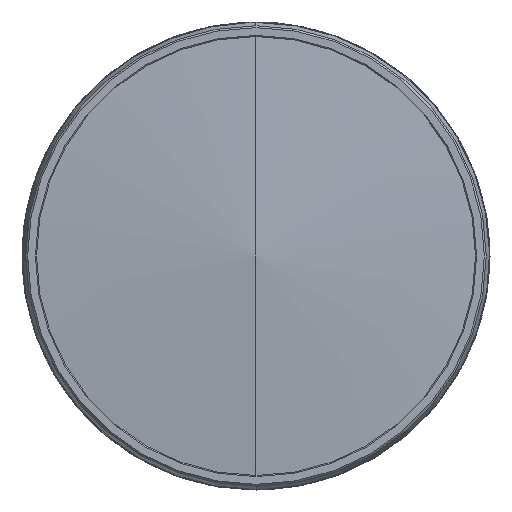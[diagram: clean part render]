
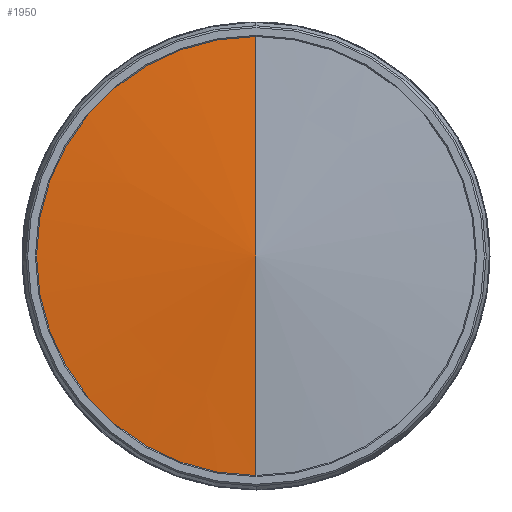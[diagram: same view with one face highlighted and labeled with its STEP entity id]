
A CAD part, left-side view. The second image highlights one B-rep face of the part: STEP entity #1950.
In plain terms, the highlighted conical face has half-angle 85.695 degrees and reference radius 13283.8 mm.
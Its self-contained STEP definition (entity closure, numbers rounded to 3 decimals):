
#99 = CARTESIAN_POINT ( 'NONE',  ( 4.378, 0., 0. ) ) ;
#342 = CARTESIAN_POINT ( 'NONE',  ( 4.378, 0., -58.15 ) ) ;
#368 = CARTESIAN_POINT ( 'NONE',  ( 0., 0., 0. ) ) ;
#408 = ORIENTED_EDGE ( 'NONE', *, *, #3731, .T. ) ;
#730 = AXIS2_PLACEMENT_3D ( 'NONE', #2799, #2455, #2097 ) ;
#1088 = CONICAL_SURFACE ( 'NONE', #730, 13283.832, 1.496 ) ;
#1200 = ORIENTED_EDGE ( 'NONE', *, *, #3457, .F. ) ;
#1249 = DIRECTION ( 'NONE',  ( 0.075, 0., 0.997 ) ) ;
#1443 = LINE ( 'NONE', #368, #2578 ) ;
#1612 = CIRCLE ( 'NONE', #2255, 58.15 ) ;
#1762 = CARTESIAN_POINT ( 'NONE',  ( 0., 0., 0. ) ) ;
#1950 = ADVANCED_FACE ( 'NONE', ( #2156 ), #1088, .T. ) ;
#2076 = DIRECTION ( 'NONE',  ( 1., 0., 0. ) ) ;
#2097 = DIRECTION ( 'NONE',  ( 0., 0., -1. ) ) ;
#2156 = FACE_OUTER_BOUND ( 'NONE', #4131, .T. ) ;
#2255 = AXIS2_PLACEMENT_3D ( 'NONE', #99, #2076, #3454 ) ;
#2265 = EDGE_CURVE ( 'NONE', #3028, #2921, #1612, .T. ) ;
#2455 = DIRECTION ( 'NONE',  ( 1., 0., 0. ) ) ;
#2578 = VECTOR ( 'NONE', #2973, 1000. ) ;
#2670 = LINE ( 'NONE', #4200, #3881 ) ;
#2799 = CARTESIAN_POINT ( 'NONE',  ( 1000., 0., 0. ) ) ;
#2921 = VERTEX_POINT ( 'NONE', #2979 ) ;
#2973 = DIRECTION ( 'NONE',  ( 0.075, 0., -0.997 ) ) ;
#2979 = CARTESIAN_POINT ( 'NONE',  ( 4.378, 0., 58.15 ) ) ;
#3028 = VERTEX_POINT ( 'NONE', #342 ) ;
#3198 = VERTEX_POINT ( 'NONE', #1762 ) ;
#3454 = DIRECTION ( 'NONE',  ( 0., 0., -1. ) ) ;
#3457 = EDGE_CURVE ( 'NONE', #3198, #3028, #1443, .T. ) ;
#3731 = EDGE_CURVE ( 'NONE', #3198, #2921, #2670, .T. ) ;
#3785 = ORIENTED_EDGE ( 'NONE', *, *, #2265, .F. ) ;
#3881 = VECTOR ( 'NONE', #1249, 1000. ) ;
#4131 = EDGE_LOOP ( 'NONE', ( #1200, #408, #3785 ) ) ;
#4200 = CARTESIAN_POINT ( 'NONE',  ( 0., 0., 0. ) ) ;
